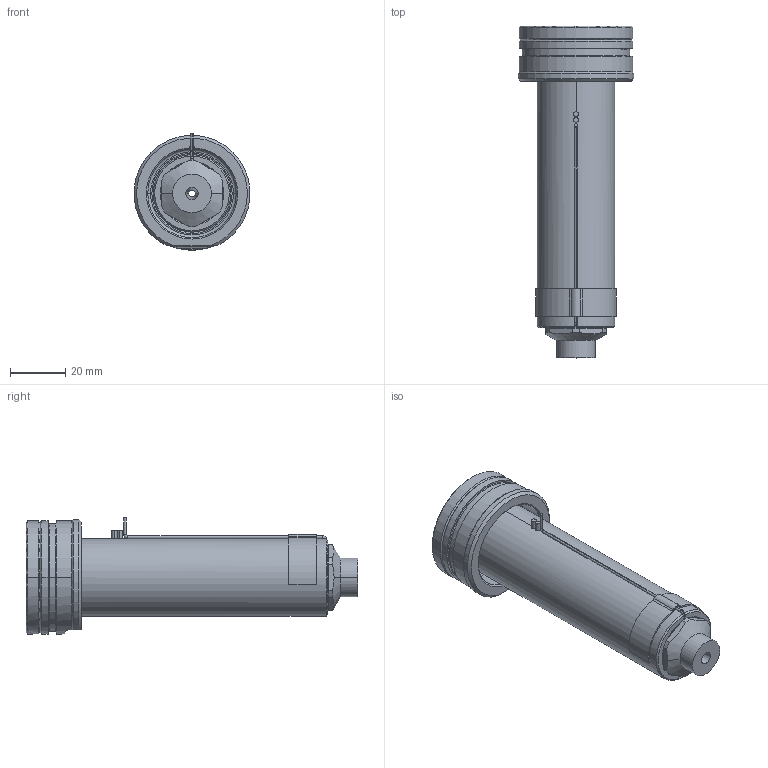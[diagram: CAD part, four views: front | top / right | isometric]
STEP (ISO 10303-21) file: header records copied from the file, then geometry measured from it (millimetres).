
FILE_DESCRIPTION((''),'2;1');
FILE_NAME('EO10_SG_SG_100_SW','2024-02-19T12:24:07',('sundharh'),(''),'CREO PARAMETRIC BY PTC INC, 2023154','CREO PARAMETRIC BY PTC INC, 2023154','');
FILE_SCHEMA(('CONFIG_CONTROL_DESIGN'));
Length unit declared in the file: millimetre
Products named in the file (1): EO10_SG_SG_100_SW
Bounding box: 41.85 x 120 x 42.02 mm (x, y, z)
Volume: 72543.5 mm3; surface area: 20307.1 mm2
Topology: 1 solids, 1 shells, 160 faces, 409 edges, 252 vertices
Faces by surface type: cylinder 63, plane 45, cone 29, torus 17, bspline 3, sphere 3
Entity records: 5529 total; most frequent: CARTESIAN_POINT 1580, DIRECTION 857, ORIENTED_EDGE 810, EDGE_CURVE 405, AXIS2_PLACEMENT_3D 353, VERTEX_POINT 252, CIRCLE 196, EDGE_LOOP 175
